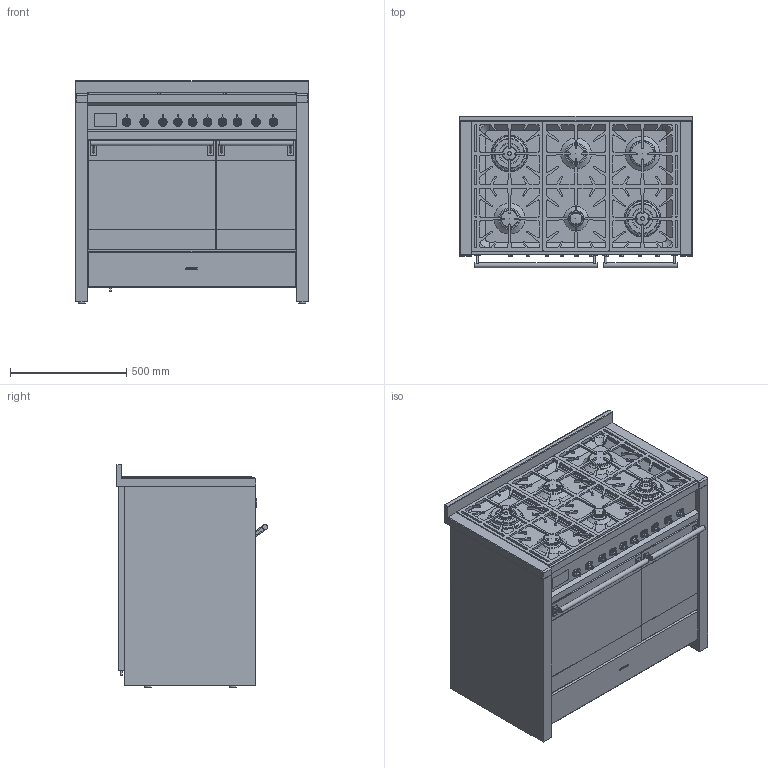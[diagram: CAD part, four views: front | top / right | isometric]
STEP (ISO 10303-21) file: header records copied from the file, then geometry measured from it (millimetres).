
FILE_DESCRIPTION(/* description */ (''),/* implementation_level */ '2;1');
FILE_NAME(/* name */ 'cucina a2-81.stp',/* time_stamp */ '2019-04-10T10:23:18+02:00',/* author */ (''),/* organization */ (''),/* preprocessor_version */ 'ST-DEVELOPER v16',/* originating_system */ 'SIEMENS PLM Software NX 11.0',/* authorisation */ '');
FILE_SCHEMA (('AUTOMOTIVE_DESIGN { 1 0 10303 214 3 1 1 1 }'));
Length unit declared in the file: millimetre
Products named in the file (1): gobb23E092A1qfrl
Bounding box: 1000 x 650.8 x 956 mm (x, y, z)
Volume: 138945048.6 mm3; surface area: 9474413.8 mm2
Topology: 54 solids, 54 shells, 1238 faces, 3106 edges, 2036 vertices
Faces by surface type: plane 672, cylinder 236, extrusion 191, torus 77, cone 58, sphere 3, bspline 1
Full cylindrical faces by diameter (mm): 4.608 x6, 6 x10, 7 x1, 8 x12, 14 x2, 14.996 x10, 17 x10, 22 x2, 24 x10, 30 x4, 55 x1, 60.611 x2, 65.5 x1, 75 x2, 85.5 x2, 85.7 x2, 100 x1, 110.5 x1, 131 x2, 147 x2
Entity records: 37234 total; most frequent: CARTESIAN_POINT 6826, DIRECTION 6442, ORIENTED_EDGE 5730, EDGE_CURVE 2865, AXIS2_PLACEMENT_3D 2219, VERTEX_POINT 2009, VECTOR 2004, LINE 1813
